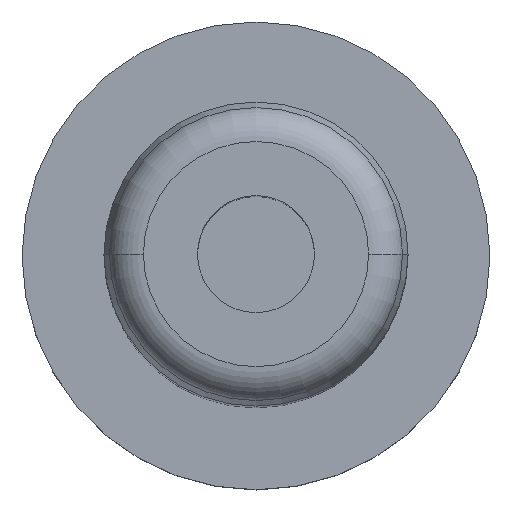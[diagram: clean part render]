
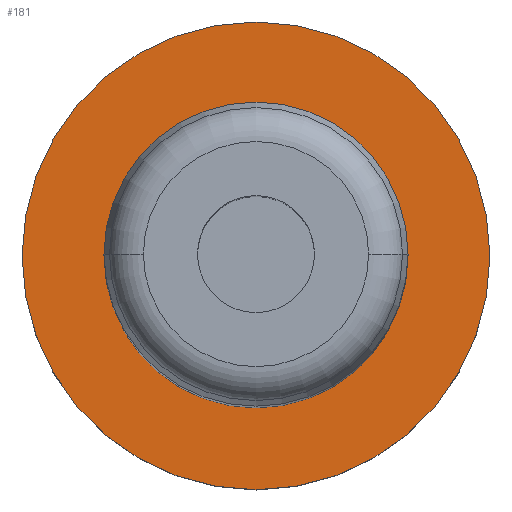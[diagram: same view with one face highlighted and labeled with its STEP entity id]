
A CAD part, top view. The second image highlights one B-rep face of the part: STEP entity #181.
In plain terms, the highlighted planar face has unit normal (0, 0, 1).
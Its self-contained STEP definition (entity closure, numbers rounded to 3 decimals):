
#111=FACE_BOUND('',#244,.T.);
#112=FACE_BOUND('',#245,.T.);
#181=ADVANCED_FACE('',(#111,#112),#201,.T.);
#201=PLANE('',#542);
#244=EDGE_LOOP('',(#311,#312));
#245=EDGE_LOOP('',(#313,#314));
#311=ORIENTED_EDGE('',*,*,#439,.F.);
#312=ORIENTED_EDGE('',*,*,#440,.F.);
#313=ORIENTED_EDGE('',*,*,#438,.T.);
#314=ORIENTED_EDGE('',*,*,#436,.T.);
#393=VERTEX_POINT('',#782);
#394=VERTEX_POINT('',#784);
#395=VERTEX_POINT('',#790);
#396=VERTEX_POINT('',#791);
#436=EDGE_CURVE('',#394,#393,#487,.T.);
#438=EDGE_CURVE('',#393,#394,#488,.T.);
#439=EDGE_CURVE('',#395,#396,#489,.T.);
#440=EDGE_CURVE('',#396,#395,#490,.T.);
#487=CIRCLE('',#536,5.5);
#488=CIRCLE('',#538,5.5);
#489=CIRCLE('',#540,10.);
#490=CIRCLE('',#541,10.);
#536=AXIS2_PLACEMENT_3D('',#783,#637,#638);
#538=AXIS2_PLACEMENT_3D('',#787,#642,#643);
#540=AXIS2_PLACEMENT_3D('',#789,#646,#647);
#541=AXIS2_PLACEMENT_3D('',#792,#648,#649);
#542=AXIS2_PLACEMENT_3D('',#793,#650,#651);
#637=DIRECTION('',(0.,0.,-1.));
#638=DIRECTION('',(0.,1.,0.));
#642=DIRECTION('',(0.,0.,-1.));
#643=DIRECTION('',(0.,-1.,0.));
#646=DIRECTION('',(0.,0.,-1.));
#647=DIRECTION('',(0.,1.,0.));
#648=DIRECTION('',(0.,0.,-1.));
#649=DIRECTION('',(0.,-1.,0.));
#650=DIRECTION('',(0.,0.,1.));
#651=DIRECTION('',(0.,-1.,0.));
#782=CARTESIAN_POINT('',(-5.5,0.,5.));
#783=CARTESIAN_POINT('',(0.,0.,5.));
#784=CARTESIAN_POINT('',(5.5,0.,5.));
#787=CARTESIAN_POINT('',(0.,0.,5.));
#789=CARTESIAN_POINT('',(0.,0.,5.));
#790=CARTESIAN_POINT('',(10.,0.,5.));
#791=CARTESIAN_POINT('',(-10.,0.,5.));
#792=CARTESIAN_POINT('',(0.,0.,5.));
#793=CARTESIAN_POINT('',(0.,0.,5.));
